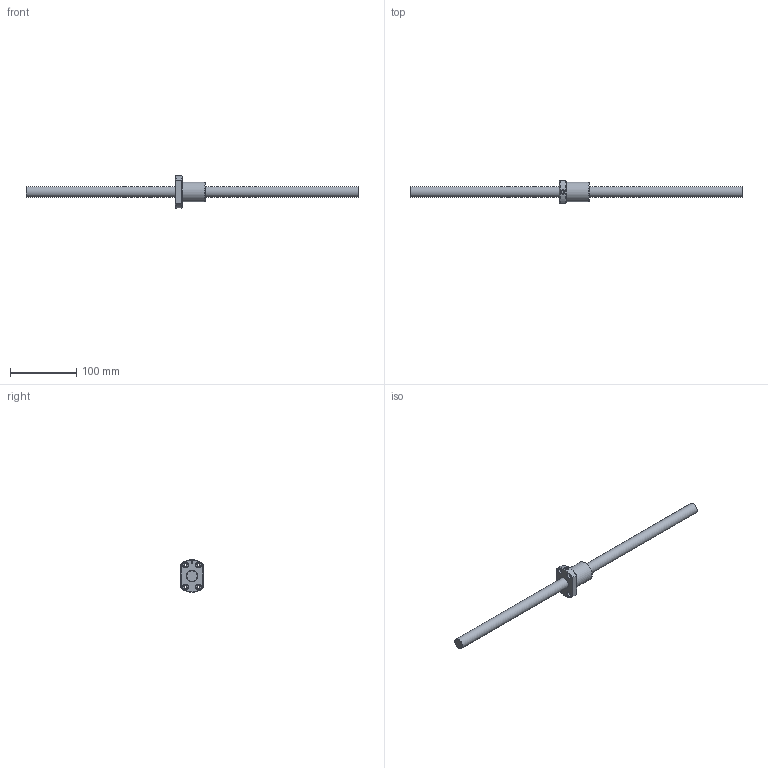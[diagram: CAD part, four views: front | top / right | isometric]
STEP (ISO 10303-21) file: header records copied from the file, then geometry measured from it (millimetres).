
FILE_DESCRIPTION (( 'STEP AP203' ), '1' );
FILE_NAME ('SFI01604D-4.step', '2024-05-16T02:27:29', ( '' ), ( '' ), 'SwSTEP 2.0', 'SolidWorks 2022', '' );
FILE_SCHEMA (( 'CONFIG_CONTROL_DESIGN' ));
Length unit declared in the file: millimetre
Products named in the file (1): SFI01604D-4
Bounding box: 500 x 34 x 48.91 mm (x, y, z)
Volume: 127872.1 mm3; surface area: 36036.1 mm2
Topology: 2 solids, 2 shells, 56 faces, 142 edges, 91 vertices
Faces by surface type: cylinder 21, plane 16, cone 9, bspline 5, torus 5
Full cylindrical faces by diameter (mm): 4 x1, 4.5 x4, 5 x6, 8 x4, 16 x1, 17.6 x1, 30 x1
Entity records: 3239 total; most frequent: CARTESIAN_POINT 2153, DIRECTION 198, ORIENTED_EDGE 182, AXIS2_PLACEMENT_3D 91, EDGE_CURVE 91, EDGE_LOOP 86, VERTEX_POINT 71, FACE_OUTER_BOUND 64
